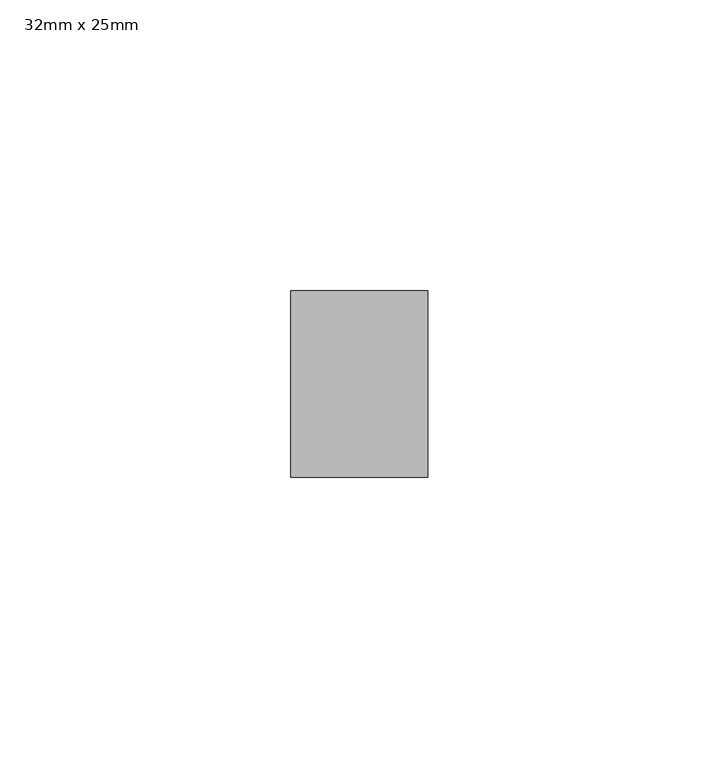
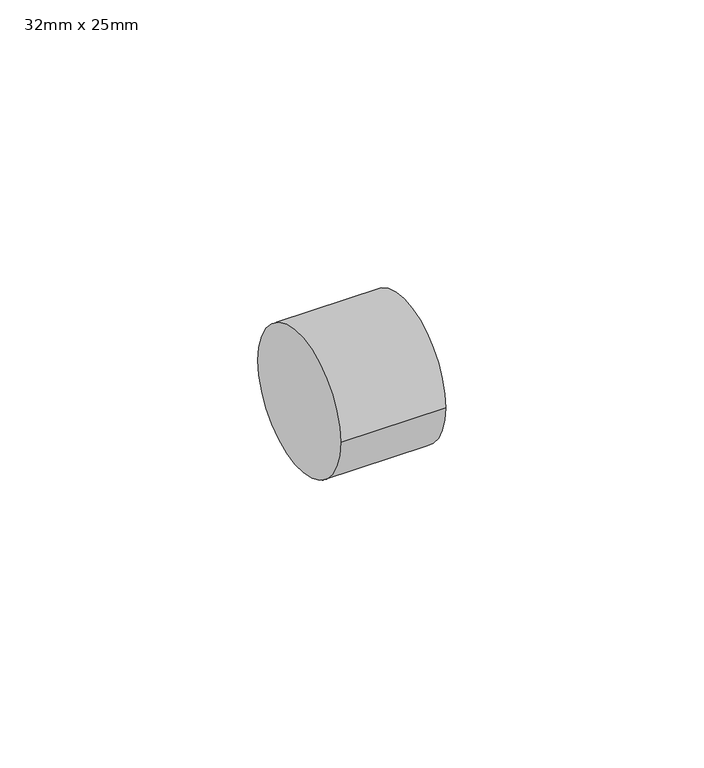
"""IFC4 building model written with IfcOpenShell, lengths in millimetres: pipe fitting geometry, PipeFitting_HTA_CPVC_ReducingBushesShortPattern : 32mm x 25mm."""

from ifc_helpers import new_model, si_unit, point, frame, origin, origin_2d, place, context, project, spatial, circle_curve, trimmed, segment, composite_curve, outline, extrude, source, transform, mapped, element, save


def pipe_fitting_32mm_x_25mm_bc47e7f9(model_context):
    return source(origin(), model_context, "Body", "SweptSolid", [
        extrude(outline(composite_curve([segment(trimmed(circle_curve(origin_2d(), 16.0), [point((-16.0, 0.0))], [point((16.0, 0.0))], False, "CARTESIAN"), True, "CONTINUOUS"), segment(trimmed(circle_curve(origin_2d(), 16.0), [point((16.0, 0.0))], [point((-16.0, 0.0))], False, "CARTESIAN"), True, "CONTINUOUS")], self_intersect=False)), frame((-11.75, 0.0, 0.0), z_axis=(1.0, 0.0, 0.0), x_axis=(0.0, 1.0, 0.0)), (0.0, 0.0, 1.0), 23.5),
    ])


if __name__ == "__main__":
    model = new_model("IFC4")
    model_context = context("Model", 3, world=origin())
    ifc_project = project(units=[si_unit("LENGTHUNIT", "METRE", prefix="MILLI")], contexts=[model_context])
    site = spatial("IfcSite", under=ifc_project)
    building = spatial("IfcBuilding", under=site)
    placement = place(None, origin())
    pipe_fitting_32mm_x_25mm_shape = pipe_fitting_32mm_x_25mm_bc47e7f9(model_context)
    element("IfcPipeFitting", 1, ObjectType="PipeFitting_HTA_CPVC_ReducingBushesShortPattern : 32mm x 25mm", at=placement, inside=building, context=model_context, shape_type="MappedRepresentation", body=[
        mapped(pipe_fitting_32mm_x_25mm_shape, transform((0.0, 0.0, 0.0), x_axis=(1.0, 0.0, 0.0), y_axis=(0.0, 1.0, 0.0), z_axis=(0.0, 0.0, 1.0))),
    ])
    save(model, "model.ifc")
